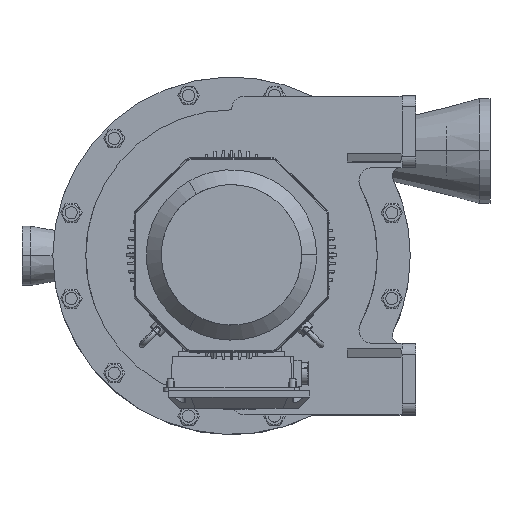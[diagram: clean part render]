
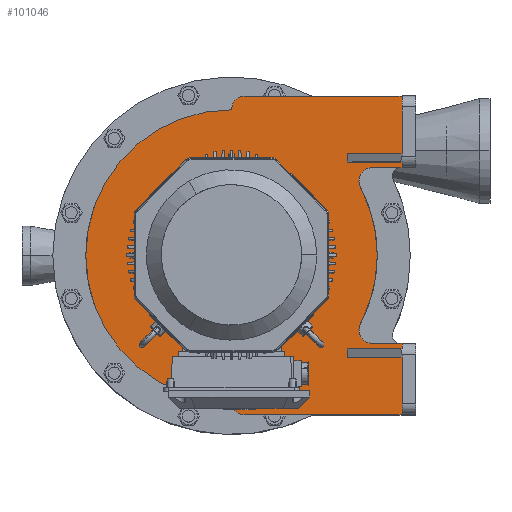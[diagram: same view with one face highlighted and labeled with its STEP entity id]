
A CAD part, top view. The second image highlights one B-rep face of the part: STEP entity #101046.
In plain terms, the highlighted planar face has unit normal (0, 0, 1).
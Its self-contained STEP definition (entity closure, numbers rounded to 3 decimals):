
#100119=CARTESIAN_POINT('',(231.661,135.,273.0));
#100120=VERTEX_POINT('',#100119);
#100136=CARTESIAN_POINT('',(256.661,160.,273.0));
#100137=VERTEX_POINT('',#100136);
#100144=CARTESIAN_POINT('',(256.661,135.,273.0));
#100145=DIRECTION('',(0.0,0.0,1.0));
#100146=DIRECTION('',(1.0,0.0,0.0));
#100147=AXIS2_PLACEMENT_3D('',#100144,#100145,#100146);
#100148=CIRCLE('',#100147,25.0);
#100149=EDGE_CURVE('',#100137,#100120,#100148,.T.);
#100159=CARTESIAN_POINT('',(265.0,0.,273.0));
#100160=VERTEX_POINT('',#100159);
#100169=CARTESIAN_POINT('',(234.535,-123.362,273.0));
#100170=VERTEX_POINT('',#100169);
#100171=CARTESIAN_POINT('',(0.0,0.0,273.0));
#100172=DIRECTION('',(0.0,0.0,-1.0));
#100173=DIRECTION('',(1.0,0.0,0.0));
#100174=AXIS2_PLACEMENT_3D('',#100171,#100172,#100173);
#100175=CIRCLE('',#100174,265.0);
#100176=EDGE_CURVE('',#100160,#100170,#100175,.T.);
#100220=CARTESIAN_POINT('',(231.661,-135.,273.0));
#100221=VERTEX_POINT('',#100220);
#100236=CARTESIAN_POINT('',(256.661,-135.,273.0));
#100237=DIRECTION('',(0.0,0.0,1.0));
#100238=DIRECTION('',(1.0,0.0,0.0));
#100239=AXIS2_PLACEMENT_3D('',#100236,#100237,#100238);
#100240=CIRCLE('',#100239,25.0);
#100241=EDGE_CURVE('',#100170,#100221,#100240,.T.);
#100253=CARTESIAN_POINT('',(-265.0,0.,273.0));
#100254=VERTEX_POINT('',#100253);
#100321=CARTESIAN_POINT('',(0.,-265.0,273.0));
#100322=VERTEX_POINT('',#100321);
#100329=CARTESIAN_POINT('',(0.0,0.0,273.0));
#100330=DIRECTION('',(0.0,0.0,-1.0));
#100331=DIRECTION('',(1.0,0.0,0.0));
#100332=AXIS2_PLACEMENT_3D('',#100329,#100330,#100331);
#100333=CIRCLE('',#100332,265.0);
#100334=EDGE_CURVE('',#100322,#100254,#100333,.T.);
#100346=CARTESIAN_POINT('',(150.0,0.0,273.0));
#100347=VERTEX_POINT('',#100346);
#100363=CARTESIAN_POINT('',(-150.0,0.,273.0));
#100364=VERTEX_POINT('',#100363);
#100371=CARTESIAN_POINT('',(0.0,0.0,273.));
#100372=DIRECTION('',(0.0,0.0,-1.0));
#100373=DIRECTION('',(1.0,0.0,0.0));
#100374=AXIS2_PLACEMENT_3D('',#100371,#100372,#100373);
#100375=CIRCLE('',#100374,150.0);
#100376=EDGE_CURVE('',#100347,#100364,#100375,.T.);
#100744=CARTESIAN_POINT('',(210.0,170.,273.));
#100745=VERTEX_POINT('',#100744);
#100752=CARTESIAN_POINT('',(310.0,170.,273.));
#100753=VERTEX_POINT('',#100752);
#100754=CARTESIAN_POINT('',(310.0,170.,273.));
#100755=DIRECTION('',(-1.0,0.0,0.0));
#100756=VECTOR('',#100755,100.0);
#100757=LINE('',#100754,#100756);
#100758=EDGE_CURVE('',#100753,#100745,#100757,.T.);
#100784=CARTESIAN_POINT('',(310.0,-170.,273.));
#100785=VERTEX_POINT('',#100784);
#100792=CARTESIAN_POINT('',(210.0,-170.,273.));
#100793=VERTEX_POINT('',#100792);
#100794=CARTESIAN_POINT('',(210.0,-170.,273.));
#100795=DIRECTION('',(1.0,0.0,0.0));
#100796=VECTOR('',#100795,100.0);
#100797=LINE('',#100794,#100796);
#100798=EDGE_CURVE('',#100793,#100785,#100797,.T.);
#100831=CARTESIAN_POINT('',(210.0,185.,273.));
#100832=VERTEX_POINT('',#100831);
#100839=CARTESIAN_POINT('',(210.0,170.,273.));
#100840=DIRECTION('',(0.0,1.0,0.0));
#100841=VECTOR('',#100840,15.);
#100842=LINE('',#100839,#100841);
#100843=EDGE_CURVE('',#100745,#100832,#100842,.T.);
#100854=CARTESIAN_POINT('',(310.0,185.,273.));
#100855=VERTEX_POINT('',#100854);
#100856=CARTESIAN_POINT('',(210.0,185.,273.));
#100857=DIRECTION('',(1.0,0.0,0.0));
#100858=VECTOR('',#100857,100.0);
#100859=LINE('',#100856,#100858);
#100860=EDGE_CURVE('',#100832,#100855,#100859,.T.);
#100878=CARTESIAN_POINT('',(310.0,160.,273.));
#100879=VERTEX_POINT('',#100878);
#100880=CARTESIAN_POINT('',(310.0,160.,273.));
#100881=DIRECTION('',(0.0,1.0,0.0));
#100882=VECTOR('',#100881,10.);
#100883=LINE('',#100880,#100882);
#100884=EDGE_CURVE('',#100879,#100753,#100883,.T.);
#100904=CARTESIAN_POINT('',(90.43,0.,273.));
#100905=DIRECTION('',(0.0,0.0,1.0));
#100906=DIRECTION('',(1.0,0.0,0.0));
#100907=AXIS2_PLACEMENT_3D('',#100904,#100905,#100906);
#100908=PLANE('',#100907);
#100909=ORIENTED_EDGE('',*,*,#100758,.T.);
#100910=ORIENTED_EDGE('',*,*,#100843,.T.);
#100911=ORIENTED_EDGE('',*,*,#100860,.T.);
#100912=CARTESIAN_POINT('',(310.0,290.0,273.));
#100913=VERTEX_POINT('',#100912);
#100914=CARTESIAN_POINT('',(310.0,185.,273.));
#100915=DIRECTION('',(0.0,1.0,0.0));
#100916=VECTOR('',#100915,105.);
#100917=LINE('',#100914,#100916);
#100918=EDGE_CURVE('',#100855,#100913,#100917,.T.);
#100919=ORIENTED_EDGE('',*,*,#100918,.T.);
#100920=CARTESIAN_POINT('',(25.,290.0,273.0));
#100921=VERTEX_POINT('',#100920);
#100922=CARTESIAN_POINT('',(25.,290.0,273.0));
#100923=DIRECTION('',(1.0,0.0,0.0));
#100924=VECTOR('',#100923,285.0);
#100925=LINE('',#100922,#100924);
#100926=EDGE_CURVE('',#100921,#100913,#100925,.T.);
#100927=ORIENTED_EDGE('',*,*,#100926,.F.);
#100928=CARTESIAN_POINT('',(0.,265.0,273.0));
#100929=VERTEX_POINT('',#100928);
#100930=CARTESIAN_POINT('',(25.,265.0,273.0));
#100931=DIRECTION('',(0.0,0.0,-1.0));
#100932=DIRECTION('',(1.0,0.0,0.0));
#100933=AXIS2_PLACEMENT_3D('',#100930,#100931,#100932);
#100934=CIRCLE('',#100933,25.0);
#100935=EDGE_CURVE('',#100929,#100921,#100934,.T.);
#100936=ORIENTED_EDGE('',*,*,#100935,.F.);
#100937=CARTESIAN_POINT('',(0.0,0.0,273.0));
#100938=DIRECTION('',(0.0,0.0,-1.0));
#100939=DIRECTION('',(1.0,0.0,0.0));
#100940=AXIS2_PLACEMENT_3D('',#100937,#100938,#100939);
#100941=CIRCLE('',#100940,265.0);
#100942=EDGE_CURVE('',#100254,#100929,#100941,.T.);
#100943=ORIENTED_EDGE('',*,*,#100942,.F.);
#100944=ORIENTED_EDGE('',*,*,#100334,.F.);
#100945=CARTESIAN_POINT('',(25.,-290.0,273.0));
#100946=VERTEX_POINT('',#100945);
#100947=CARTESIAN_POINT('',(25.,-265.0,273.0));
#100948=DIRECTION('',(0.0,0.0,-1.0));
#100949=DIRECTION('',(1.0,0.0,0.0));
#100950=AXIS2_PLACEMENT_3D('',#100947,#100948,#100949);
#100951=CIRCLE('',#100950,25.0);
#100952=EDGE_CURVE('',#100946,#100322,#100951,.T.);
#100953=ORIENTED_EDGE('',*,*,#100952,.F.);
#100954=CARTESIAN_POINT('',(310.0,-290.0,273.));
#100955=VERTEX_POINT('',#100954);
#100956=CARTESIAN_POINT('',(310.0,-290.0,273.));
#100957=DIRECTION('',(-1.0,0.0,0.0));
#100958=VECTOR('',#100957,285.0);
#100959=LINE('',#100956,#100958);
#100960=EDGE_CURVE('',#100955,#100946,#100959,.T.);
#100961=ORIENTED_EDGE('',*,*,#100960,.F.);
#100962=CARTESIAN_POINT('',(310.0,-185.,273.));
#100963=VERTEX_POINT('',#100962);
#100964=CARTESIAN_POINT('',(310.0,-290.0,273.));
#100965=DIRECTION('',(0.0,1.0,0.0));
#100966=VECTOR('',#100965,105.);
#100967=LINE('',#100964,#100966);
#100968=EDGE_CURVE('',#100955,#100963,#100967,.T.);
#100969=ORIENTED_EDGE('',*,*,#100968,.T.);
#100970=CARTESIAN_POINT('',(210.0,-185.,273.));
#100971=VERTEX_POINT('',#100970);
#100972=CARTESIAN_POINT('',(310.0,-185.,273.));
#100973=DIRECTION('',(-1.0,0.0,0.0));
#100974=VECTOR('',#100973,100.0);
#100975=LINE('',#100972,#100974);
#100976=EDGE_CURVE('',#100963,#100971,#100975,.T.);
#100977=ORIENTED_EDGE('',*,*,#100976,.T.);
#100978=CARTESIAN_POINT('',(210.0,-185.,273.));
#100979=DIRECTION('',(0.0,1.0,0.0));
#100980=VECTOR('',#100979,15.);
#100981=LINE('',#100978,#100980);
#100982=EDGE_CURVE('',#100971,#100793,#100981,.T.);
#100983=ORIENTED_EDGE('',*,*,#100982,.T.);
#100984=ORIENTED_EDGE('',*,*,#100798,.T.);
#100985=CARTESIAN_POINT('',(310.0,-160.0,273.));
#100986=VERTEX_POINT('',#100985);
#100987=CARTESIAN_POINT('',(310.0,-170.,273.));
#100988=DIRECTION('',(0.0,1.0,0.0));
#100989=VECTOR('',#100988,10.);
#100990=LINE('',#100987,#100989);
#100991=EDGE_CURVE('',#100785,#100986,#100990,.T.);
#100992=ORIENTED_EDGE('',*,*,#100991,.T.);
#100993=CARTESIAN_POINT('',(256.661,-160.,273.0));
#100994=VERTEX_POINT('',#100993);
#100995=CARTESIAN_POINT('',(256.661,-160.,273.0));
#100996=DIRECTION('',(1.0,0.0,0.0));
#100997=VECTOR('',#100996,53.339);
#100998=LINE('',#100995,#100997);
#100999=EDGE_CURVE('',#100994,#100986,#100998,.T.);
#101000=ORIENTED_EDGE('',*,*,#100999,.F.);
#101001=CARTESIAN_POINT('',(256.661,-135.,273.0));
#101002=DIRECTION('',(0.0,0.0,1.0));
#101003=DIRECTION('',(1.0,0.0,0.0));
#101004=AXIS2_PLACEMENT_3D('',#101001,#101002,#101003);
#101005=CIRCLE('',#101004,25.0);
#101006=EDGE_CURVE('',#100221,#100994,#101005,.T.);
#101007=ORIENTED_EDGE('',*,*,#101006,.F.);
#101008=ORIENTED_EDGE('',*,*,#100241,.F.);
#101009=ORIENTED_EDGE('',*,*,#100176,.F.);
#101010=CARTESIAN_POINT('',(234.535,123.362,273.0));
#101011=VERTEX_POINT('',#101010);
#101012=CARTESIAN_POINT('',(0.0,0.0,273.0));
#101013=DIRECTION('',(0.0,0.0,-1.0));
#101014=DIRECTION('',(1.0,0.0,0.0));
#101015=AXIS2_PLACEMENT_3D('',#101012,#101013,#101014);
#101016=CIRCLE('',#101015,265.0);
#101017=EDGE_CURVE('',#101011,#100160,#101016,.T.);
#101018=ORIENTED_EDGE('',*,*,#101017,.F.);
#101019=CARTESIAN_POINT('',(256.661,135.,273.0));
#101020=DIRECTION('',(0.0,0.0,1.0));
#101021=DIRECTION('',(1.0,0.0,0.0));
#101022=AXIS2_PLACEMENT_3D('',#101019,#101020,#101021);
#101023=CIRCLE('',#101022,25.0);
#101024=EDGE_CURVE('',#100120,#101011,#101023,.T.);
#101025=ORIENTED_EDGE('',*,*,#101024,.F.);
#101026=ORIENTED_EDGE('',*,*,#100149,.F.);
#101027=CARTESIAN_POINT('',(310.0,160.,273.));
#101028=DIRECTION('',(-1.0,0.0,0.0));
#101029=VECTOR('',#101028,53.339);
#101030=LINE('',#101027,#101029);
#101031=EDGE_CURVE('',#100879,#100137,#101030,.T.);
#101032=ORIENTED_EDGE('',*,*,#101031,.F.);
#101033=ORIENTED_EDGE('',*,*,#100884,.T.);
#101034=EDGE_LOOP('',(#100909,#100910,#100911,#100919,#100927,#100936,#100943,#100944,#100953,#100961,#100969,#100977,#100983,#100984,#100992,#101000,#101007,#101008,#101009,#101018,#101025,#101026,#101032,#101033));
#101035=FACE_OUTER_BOUND('',#101034,.T.);
#101036=ORIENTED_EDGE('',*,*,#100376,.T.);
#101037=CARTESIAN_POINT('',(0.0,0.0,273.));
#101038=DIRECTION('',(0.0,0.0,-1.0));
#101039=DIRECTION('',(1.0,0.0,0.0));
#101040=AXIS2_PLACEMENT_3D('',#101037,#101038,#101039);
#101041=CIRCLE('',#101040,150.0);
#101042=EDGE_CURVE('',#100364,#100347,#101041,.T.);
#101043=ORIENTED_EDGE('',*,*,#101042,.T.);
#101044=EDGE_LOOP('',(#101036,#101043));
#101045=FACE_BOUND('',#101044,.T.);
#101046=ADVANCED_FACE('',(#101035,#101045),#100908,.T.);
